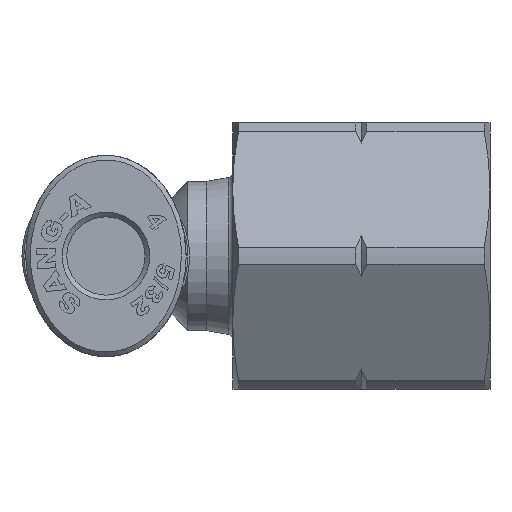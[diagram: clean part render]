
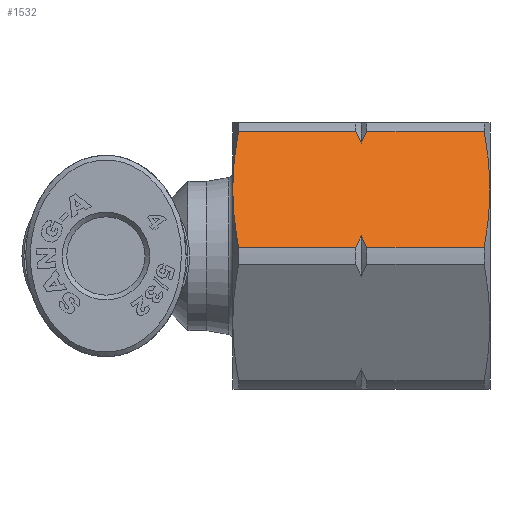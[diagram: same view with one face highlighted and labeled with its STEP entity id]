
A CAD part, front view. The second image highlights one B-rep face of the part: STEP entity #1532.
In plain terms, the highlighted planar face has unit normal (0, -0.866, 0.5).
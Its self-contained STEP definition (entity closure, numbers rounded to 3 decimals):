
#142=CARTESIAN_POINT('',(1.4,-6.187,3.572));
#143=VERTEX_POINT('',#142);
#242=CARTESIAN_POINT('',(14.888,-4.386,6.69));
#243=VERTEX_POINT('',#242);
#251=CARTESIAN_POINT('',(15.2,-6.187,3.572));
#252=VERTEX_POINT('',#251);
#253=CARTESIAN_POINT('',(15.2,-6.187,3.572));
#254=CARTESIAN_POINT('',(15.2,-5.337,5.043));
#255=CARTESIAN_POINT('',(14.888,-4.386,6.69));
#263=(BOUNDED_CURVE()B_SPLINE_CURVE(2,(#253,#254,#255),.UNSPECIFIED.,.F.,.U.)B_SPLINE_CURVE_WITH_KNOTS((3,3),(0.362,0.723),.UNSPECIFIED.)CURVE()GEOMETRIC_REPRESENTATION_ITEM()RATIONAL_B_SPLINE_CURVE((1.0,1.03,1.0))REPRESENTATION_ITEM(''));
#264=EDGE_CURVE('',#252,#243,#263,.T.);
#359=CARTESIAN_POINT('',(14.888,-7.987,0.453));
#360=VERTEX_POINT('',#359);
#361=CARTESIAN_POINT('',(14.888,-7.987,0.453));
#362=CARTESIAN_POINT('',(15.2,-7.036,2.101));
#363=CARTESIAN_POINT('',(15.2,-6.187,3.572));
#371=(BOUNDED_CURVE()B_SPLINE_CURVE(2,(#361,#362,#363),.UNSPECIFIED.,.F.,.U.)B_SPLINE_CURVE_WITH_KNOTS((3,3),(0.0,0.362),.UNSPECIFIED.)CURVE()GEOMETRIC_REPRESENTATION_ITEM()RATIONAL_B_SPLINE_CURVE((1.0,1.03,1.0))REPRESENTATION_ITEM(''));
#372=EDGE_CURVE('',#360,#252,#371,.T.);
#549=CARTESIAN_POINT('',(8.,-7.987,0.453));
#550=VERTEX_POINT('',#549);
#551=CARTESIAN_POINT('',(8.3,-7.623,1.083));
#552=VERTEX_POINT('',#551);
#553=CARTESIAN_POINT('',(8.,-7.987,0.453));
#554=CARTESIAN_POINT('',(8.167,-7.802,0.774));
#555=CARTESIAN_POINT('',(8.3,-7.623,1.083));
#563=(BOUNDED_CURVE()B_SPLINE_CURVE(2,(#553,#554,#555),.UNSPECIFIED.,.F.,.U.)B_SPLINE_CURVE_WITH_KNOTS((3,3),(0.0,0.079),.UNSPECIFIED.)CURVE()GEOMETRIC_REPRESENTATION_ITEM()RATIONAL_B_SPLINE_CURVE((1.0,1.001,1.0))REPRESENTATION_ITEM(''));
#564=EDGE_CURVE('',#550,#552,#563,.T.);
#734=CARTESIAN_POINT('',(8.,-4.386,6.69));
#735=VERTEX_POINT('',#734);
#743=CARTESIAN_POINT('',(8.3,-4.75,6.06));
#744=VERTEX_POINT('',#743);
#745=CARTESIAN_POINT('',(8.3,-4.75,6.06));
#746=CARTESIAN_POINT('',(8.167,-4.572,6.369));
#747=CARTESIAN_POINT('',(8.,-4.386,6.69));
#755=(BOUNDED_CURVE()B_SPLINE_CURVE(2,(#745,#746,#747),.UNSPECIFIED.,.F.,.U.)B_SPLINE_CURVE_WITH_KNOTS((3,3),(0.0,0.079),.UNSPECIFIED.)CURVE()GEOMETRIC_REPRESENTATION_ITEM()RATIONAL_B_SPLINE_CURVE((1.0,1.001,1.0))REPRESENTATION_ITEM(''));
#756=EDGE_CURVE('',#744,#735,#755,.T.);
#885=CARTESIAN_POINT('',(8.6,-4.386,6.69));
#886=VERTEX_POINT('',#885);
#887=CARTESIAN_POINT('',(8.6,-4.386,6.69));
#888=CARTESIAN_POINT('',(8.433,-4.572,6.369));
#889=CARTESIAN_POINT('',(8.3,-4.75,6.06));
#897=(BOUNDED_CURVE()B_SPLINE_CURVE(2,(#887,#888,#889),.UNSPECIFIED.,.F.,.U.)B_SPLINE_CURVE_WITH_KNOTS((3,3),(0.0,0.079),.UNSPECIFIED.)CURVE()GEOMETRIC_REPRESENTATION_ITEM()RATIONAL_B_SPLINE_CURVE((1.0,1.001,1.0))REPRESENTATION_ITEM(''));
#898=EDGE_CURVE('',#886,#744,#897,.T.);
#946=CARTESIAN_POINT('',(8.6,-7.987,0.453));
#947=VERTEX_POINT('',#946);
#955=CARTESIAN_POINT('',(8.3,-7.623,1.083));
#956=CARTESIAN_POINT('',(8.433,-7.802,0.774));
#957=CARTESIAN_POINT('',(8.6,-7.987,0.453));
#965=(BOUNDED_CURVE()B_SPLINE_CURVE(2,(#955,#956,#957),.UNSPECIFIED.,.F.,.U.)B_SPLINE_CURVE_WITH_KNOTS((3,3),(0.0,0.079),.UNSPECIFIED.)CURVE()GEOMETRIC_REPRESENTATION_ITEM()RATIONAL_B_SPLINE_CURVE((1.0,1.001,1.0))REPRESENTATION_ITEM(''));
#966=EDGE_CURVE('',#552,#947,#965,.T.);
#1253=CARTESIAN_POINT('',(1.712,-7.987,0.453));
#1254=VERTEX_POINT('',#1253);
#1255=CARTESIAN_POINT('',(1.4,-6.187,3.572));
#1256=CARTESIAN_POINT('',(1.4,-7.036,2.101));
#1257=CARTESIAN_POINT('',(1.712,-7.987,0.453));
#1265=(BOUNDED_CURVE()B_SPLINE_CURVE(2,(#1255,#1256,#1257),.UNSPECIFIED.,.F.,.U.)B_SPLINE_CURVE_WITH_KNOTS((3,3),(0.362,0.723),.UNSPECIFIED.)CURVE()GEOMETRIC_REPRESENTATION_ITEM()RATIONAL_B_SPLINE_CURVE((1.0,1.03,1.0))REPRESENTATION_ITEM(''));
#1266=EDGE_CURVE('',#143,#1254,#1265,.T.);
#1361=CARTESIAN_POINT('',(1.712,-4.386,6.69));
#1362=VERTEX_POINT('',#1361);
#1363=CARTESIAN_POINT('',(1.712,-4.386,6.69));
#1364=CARTESIAN_POINT('',(1.4,-5.337,5.043));
#1365=CARTESIAN_POINT('',(1.4,-6.187,3.572));
#1373=(BOUNDED_CURVE()B_SPLINE_CURVE(2,(#1363,#1364,#1365),.UNSPECIFIED.,.F.,.U.)B_SPLINE_CURVE_WITH_KNOTS((3,3),(0.0,0.362),.UNSPECIFIED.)CURVE()GEOMETRIC_REPRESENTATION_ITEM()RATIONAL_B_SPLINE_CURVE((1.0,1.03,1.0))REPRESENTATION_ITEM(''));
#1374=EDGE_CURVE('',#1362,#143,#1373,.T.);
#1467=CARTESIAN_POINT('',(8.,-4.386,6.69));
#1468=DIRECTION('',(-1.0,0.0,0.0));
#1469=VECTOR('',#1468,6.288);
#1470=LINE('',#1467,#1469);
#1471=EDGE_CURVE('',#735,#1362,#1470,.T.);
#1498=CARTESIAN_POINT('',(1.4,-4.124,7.144));
#1499=DIRECTION('',(0.0,-0.866,0.5));
#1500=DIRECTION('',(0.0,-0.5,-0.866));
#1501=AXIS2_PLACEMENT_3D('',#1498,#1499,#1500);
#1502=PLANE('',#1501);
#1503=ORIENTED_EDGE('',*,*,#372,.T.);
#1504=ORIENTED_EDGE('',*,*,#264,.T.);
#1505=CARTESIAN_POINT('',(14.888,-4.386,6.69));
#1506=DIRECTION('',(-1.0,0.0,0.0));
#1507=VECTOR('',#1506,6.288);
#1508=LINE('',#1505,#1507);
#1509=EDGE_CURVE('',#243,#886,#1508,.T.);
#1510=ORIENTED_EDGE('',*,*,#1509,.T.);
#1511=ORIENTED_EDGE('',*,*,#898,.T.);
#1512=ORIENTED_EDGE('',*,*,#756,.T.);
#1513=ORIENTED_EDGE('',*,*,#1471,.T.);
#1514=ORIENTED_EDGE('',*,*,#1374,.T.);
#1515=ORIENTED_EDGE('',*,*,#1266,.T.);
#1516=CARTESIAN_POINT('',(1.712,-7.987,0.453));
#1517=DIRECTION('',(1.0,0.0,0.0));
#1518=VECTOR('',#1517,6.288);
#1519=LINE('',#1516,#1518);
#1520=EDGE_CURVE('',#1254,#550,#1519,.T.);
#1521=ORIENTED_EDGE('',*,*,#1520,.T.);
#1522=ORIENTED_EDGE('',*,*,#564,.T.);
#1523=ORIENTED_EDGE('',*,*,#966,.T.);
#1524=CARTESIAN_POINT('',(8.6,-7.987,0.453));
#1525=DIRECTION('',(1.0,0.0,0.0));
#1526=VECTOR('',#1525,6.288);
#1527=LINE('',#1524,#1526);
#1528=EDGE_CURVE('',#947,#360,#1527,.T.);
#1529=ORIENTED_EDGE('',*,*,#1528,.T.);
#1530=EDGE_LOOP('',(#1503,#1504,#1510,#1511,#1512,#1513,#1514,#1515,#1521,#1522,#1523,#1529));
#1531=FACE_OUTER_BOUND('',#1530,.T.);
#1532=ADVANCED_FACE('',(#1531),#1502,.T.);
